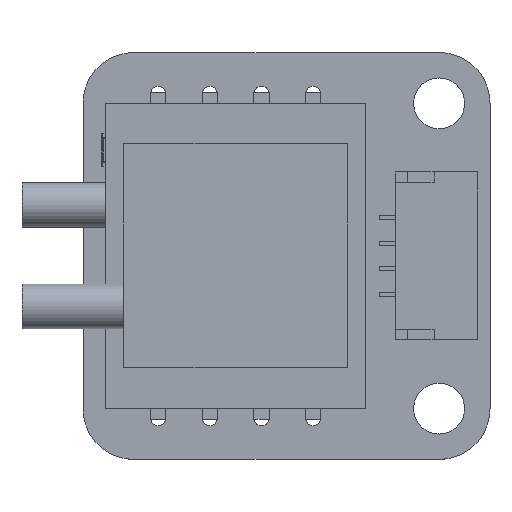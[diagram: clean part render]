
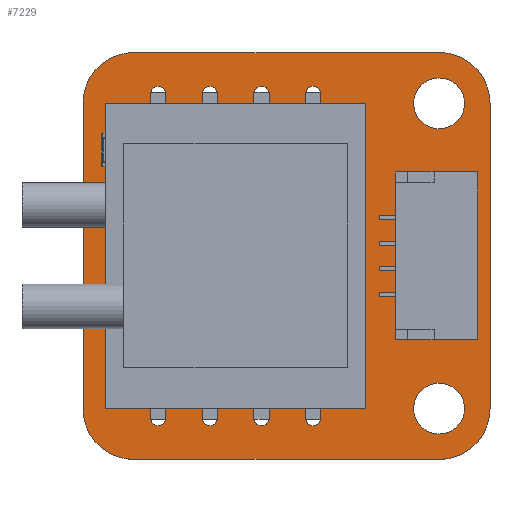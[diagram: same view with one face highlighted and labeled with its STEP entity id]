
A CAD part, top view. The second image highlights one B-rep face of the part: STEP entity #7229.
In plain terms, the highlighted planar face has unit normal (0, 0, 1).
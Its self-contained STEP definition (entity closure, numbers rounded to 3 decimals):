
#6604 = VERTEX_POINT('',#6605);
#6605 = CARTESIAN_POINT('',(-10.,-7.5,0.));
#6611 = EDGE_CURVE('',#6604,#6612,#6614,.T.);
#6612 = VERTEX_POINT('',#6613);
#6613 = CARTESIAN_POINT('',(-10.,7.5,0.));
#6614 = LINE('',#6615,#6616);
#6615 = CARTESIAN_POINT('',(-10.,-7.5,0.));
#6616 = VECTOR('',#6617,1.);
#6617 = DIRECTION('',(0.,1.,0.));
#6642 = EDGE_CURVE('',#6612,#6643,#6645,.T.);
#6643 = VERTEX_POINT('',#6644);
#6644 = CARTESIAN_POINT('',(-7.5,10.,0.));
#6645 = CIRCLE('',#6646,2.499);
#6646 = AXIS2_PLACEMENT_3D('',#6647,#6648,#6649);
#6647 = CARTESIAN_POINT('',(-7.501,7.501,0.));
#6648 = DIRECTION('',(0.,0.,-1.));
#6649 = DIRECTION('',(-1.,0.,0.));
#6675 = EDGE_CURVE('',#6643,#6676,#6678,.T.);
#6676 = VERTEX_POINT('',#6677);
#6677 = CARTESIAN_POINT('',(7.5,10.,0.));
#6678 = LINE('',#6679,#6680);
#6679 = CARTESIAN_POINT('',(-7.5,10.,0.));
#6680 = VECTOR('',#6681,1.);
#6681 = DIRECTION('',(1.,0.,0.));
#6706 = EDGE_CURVE('',#6676,#6707,#6709,.T.);
#6707 = VERTEX_POINT('',#6708);
#6708 = CARTESIAN_POINT('',(10.,7.5,0.));
#6709 = CIRCLE('',#6710,2.499);
#6710 = AXIS2_PLACEMENT_3D('',#6711,#6712,#6713);
#6711 = CARTESIAN_POINT('',(7.501,7.501,0.));
#6712 = DIRECTION('',(0.,0.,-1.));
#6713 = DIRECTION('',(0.,1.,0.));
#6739 = EDGE_CURVE('',#6707,#6740,#6742,.T.);
#6740 = VERTEX_POINT('',#6741);
#6741 = CARTESIAN_POINT('',(10.,-7.5,0.));
#6742 = LINE('',#6743,#6744);
#6743 = CARTESIAN_POINT('',(10.,7.5,0.));
#6744 = VECTOR('',#6745,1.);
#6745 = DIRECTION('',(0.,-1.,0.));
#6770 = EDGE_CURVE('',#6740,#6771,#6773,.T.);
#6771 = VERTEX_POINT('',#6772);
#6772 = CARTESIAN_POINT('',(7.5,-10.,0.));
#6773 = CIRCLE('',#6774,2.499);
#6774 = AXIS2_PLACEMENT_3D('',#6775,#6776,#6777);
#6775 = CARTESIAN_POINT('',(7.501,-7.501,0.));
#6776 = DIRECTION('',(0.,0.,-1.));
#6777 = DIRECTION('',(1.,0.,0.));
#6803 = EDGE_CURVE('',#6771,#6804,#6806,.T.);
#6804 = VERTEX_POINT('',#6805);
#6805 = CARTESIAN_POINT('',(-7.5,-10.,0.));
#6806 = LINE('',#6807,#6808);
#6807 = CARTESIAN_POINT('',(7.5,-10.,0.));
#6808 = VECTOR('',#6809,1.);
#6809 = DIRECTION('',(-1.,0.,0.));
#6834 = EDGE_CURVE('',#6804,#6604,#6835,.T.);
#6835 = CIRCLE('',#6836,2.499);
#6836 = AXIS2_PLACEMENT_3D('',#6837,#6838,#6839);
#6837 = CARTESIAN_POINT('',(-7.501,-7.501,0.));
#6838 = DIRECTION('',(0.,0.,-1.));
#6839 = DIRECTION('',(0.,-1.,0.));
#6860 = VERTEX_POINT('',#6861);
#6861 = CARTESIAN_POINT('',(-5.96,-8.,0.));
#6867 = EDGE_CURVE('',#6860,#6860,#6868,.T.);
#6868 = CIRCLE('',#6869,0.35);
#6869 = AXIS2_PLACEMENT_3D('',#6870,#6871,#6872);
#6870 = CARTESIAN_POINT('',(-6.31,-8.,0.));
#6871 = DIRECTION('',(0.,0.,1.));
#6872 = DIRECTION('',(1.,0.,0.));
#6893 = VERTEX_POINT('',#6894);
#6894 = CARTESIAN_POINT('',(-3.42,-8.,0.));
#6900 = EDGE_CURVE('',#6893,#6893,#6901,.T.);
#6901 = CIRCLE('',#6902,0.35);
#6902 = AXIS2_PLACEMENT_3D('',#6903,#6904,#6905);
#6903 = CARTESIAN_POINT('',(-3.77,-8.,0.));
#6904 = DIRECTION('',(0.,0.,1.));
#6905 = DIRECTION('',(1.,0.,0.));
#6926 = VERTEX_POINT('',#6927);
#6927 = CARTESIAN_POINT('',(-5.96,8.,0.));
#6933 = EDGE_CURVE('',#6926,#6926,#6934,.T.);
#6934 = CIRCLE('',#6935,0.35);
#6935 = AXIS2_PLACEMENT_3D('',#6936,#6937,#6938);
#6936 = CARTESIAN_POINT('',(-6.31,8.,0.));
#6937 = DIRECTION('',(0.,0.,1.));
#6938 = DIRECTION('',(1.,0.,0.));
#6959 = VERTEX_POINT('',#6960);
#6960 = CARTESIAN_POINT('',(-0.88,-8.,0.));
#6966 = EDGE_CURVE('',#6959,#6959,#6967,.T.);
#6967 = CIRCLE('',#6968,0.35);
#6968 = AXIS2_PLACEMENT_3D('',#6969,#6970,#6971);
#6969 = CARTESIAN_POINT('',(-1.23,-8.,0.));
#6970 = DIRECTION('',(0.,0.,1.));
#6971 = DIRECTION('',(1.,0.,0.));
#6992 = VERTEX_POINT('',#6993);
#6993 = CARTESIAN_POINT('',(-3.42,8.,0.));
#6999 = EDGE_CURVE('',#6992,#6992,#7000,.T.);
#7000 = CIRCLE('',#7001,0.35);
#7001 = AXIS2_PLACEMENT_3D('',#7002,#7003,#7004);
#7002 = CARTESIAN_POINT('',(-3.77,8.,0.));
#7003 = DIRECTION('',(0.,0.,1.));
#7004 = DIRECTION('',(1.,0.,0.));
#7025 = VERTEX_POINT('',#7026);
#7026 = CARTESIAN_POINT('',(1.66,-8.,0.));
#7032 = EDGE_CURVE('',#7025,#7025,#7033,.T.);
#7033 = CIRCLE('',#7034,0.35);
#7034 = AXIS2_PLACEMENT_3D('',#7035,#7036,#7037);
#7035 = CARTESIAN_POINT('',(1.31,-8.,0.));
#7036 = DIRECTION('',(0.,0.,1.));
#7037 = DIRECTION('',(1.,0.,0.));
#7058 = VERTEX_POINT('',#7059);
#7059 = CARTESIAN_POINT('',(8.75,-7.5,0.));
#7065 = EDGE_CURVE('',#7058,#7058,#7066,.T.);
#7066 = CIRCLE('',#7067,1.25);
#7067 = AXIS2_PLACEMENT_3D('',#7068,#7069,#7070);
#7068 = CARTESIAN_POINT('',(7.5,-7.5,0.));
#7069 = DIRECTION('',(0.,0.,1.));
#7070 = DIRECTION('',(1.,0.,0.));
#7091 = VERTEX_POINT('',#7092);
#7092 = CARTESIAN_POINT('',(-0.88,8.,0.));
#7098 = EDGE_CURVE('',#7091,#7091,#7099,.T.);
#7099 = CIRCLE('',#7100,0.35);
#7100 = AXIS2_PLACEMENT_3D('',#7101,#7102,#7103);
#7101 = CARTESIAN_POINT('',(-1.23,8.,0.));
#7102 = DIRECTION('',(0.,0.,1.));
#7103 = DIRECTION('',(1.,0.,0.));
#7124 = VERTEX_POINT('',#7125);
#7125 = CARTESIAN_POINT('',(1.66,8.,0.));
#7131 = EDGE_CURVE('',#7124,#7124,#7132,.T.);
#7132 = CIRCLE('',#7133,0.35);
#7133 = AXIS2_PLACEMENT_3D('',#7134,#7135,#7136);
#7134 = CARTESIAN_POINT('',(1.31,8.,0.));
#7135 = DIRECTION('',(0.,0.,1.));
#7136 = DIRECTION('',(1.,0.,0.));
#7157 = VERTEX_POINT('',#7158);
#7158 = CARTESIAN_POINT('',(8.75,7.5,0.));
#7164 = EDGE_CURVE('',#7157,#7157,#7165,.T.);
#7165 = CIRCLE('',#7166,1.25);
#7166 = AXIS2_PLACEMENT_3D('',#7167,#7168,#7169);
#7167 = CARTESIAN_POINT('',(7.5,7.5,0.));
#7168 = DIRECTION('',(0.,0.,1.));
#7169 = DIRECTION('',(1.,0.,0.));
#7229 = ADVANCED_FACE('',(#7230,#7240,#7243,#7246,#7249,#7252,#7255,
    #7258,#7261,#7264,#7267),#7270,.T.);
#7230 = FACE_BOUND('',#7231,.F.);
#7231 = EDGE_LOOP('',(#7232,#7233,#7234,#7235,#7236,#7237,#7238,#7239));
#7232 = ORIENTED_EDGE('',*,*,#6611,.T.);
#7233 = ORIENTED_EDGE('',*,*,#6642,.T.);
#7234 = ORIENTED_EDGE('',*,*,#6675,.T.);
#7235 = ORIENTED_EDGE('',*,*,#6706,.T.);
#7236 = ORIENTED_EDGE('',*,*,#6739,.T.);
#7237 = ORIENTED_EDGE('',*,*,#6770,.T.);
#7238 = ORIENTED_EDGE('',*,*,#6803,.T.);
#7239 = ORIENTED_EDGE('',*,*,#6834,.T.);
#7240 = FACE_BOUND('',#7241,.T.);
#7241 = EDGE_LOOP('',(#7242));
#7242 = ORIENTED_EDGE('',*,*,#6867,.F.);
#7243 = FACE_BOUND('',#7244,.T.);
#7244 = EDGE_LOOP('',(#7245));
#7245 = ORIENTED_EDGE('',*,*,#6900,.F.);
#7246 = FACE_BOUND('',#7247,.T.);
#7247 = EDGE_LOOP('',(#7248));
#7248 = ORIENTED_EDGE('',*,*,#6933,.F.);
#7249 = FACE_BOUND('',#7250,.T.);
#7250 = EDGE_LOOP('',(#7251));
#7251 = ORIENTED_EDGE('',*,*,#6966,.F.);
#7252 = FACE_BOUND('',#7253,.T.);
#7253 = EDGE_LOOP('',(#7254));
#7254 = ORIENTED_EDGE('',*,*,#6999,.F.);
#7255 = FACE_BOUND('',#7256,.T.);
#7256 = EDGE_LOOP('',(#7257));
#7257 = ORIENTED_EDGE('',*,*,#7032,.F.);
#7258 = FACE_BOUND('',#7259,.T.);
#7259 = EDGE_LOOP('',(#7260));
#7260 = ORIENTED_EDGE('',*,*,#7065,.F.);
#7261 = FACE_BOUND('',#7262,.T.);
#7262 = EDGE_LOOP('',(#7263));
#7263 = ORIENTED_EDGE('',*,*,#7098,.F.);
#7264 = FACE_BOUND('',#7265,.T.);
#7265 = EDGE_LOOP('',(#7266));
#7266 = ORIENTED_EDGE('',*,*,#7131,.F.);
#7267 = FACE_BOUND('',#7268,.T.);
#7268 = EDGE_LOOP('',(#7269));
#7269 = ORIENTED_EDGE('',*,*,#7164,.F.);
#7270 = PLANE('',#7271);
#7271 = AXIS2_PLACEMENT_3D('',#7272,#7273,#7274);
#7272 = CARTESIAN_POINT('',(-10.,-7.5,0.));
#7273 = DIRECTION('',(0.,0.,1.));
#7274 = DIRECTION('',(1.,0.,0.));
